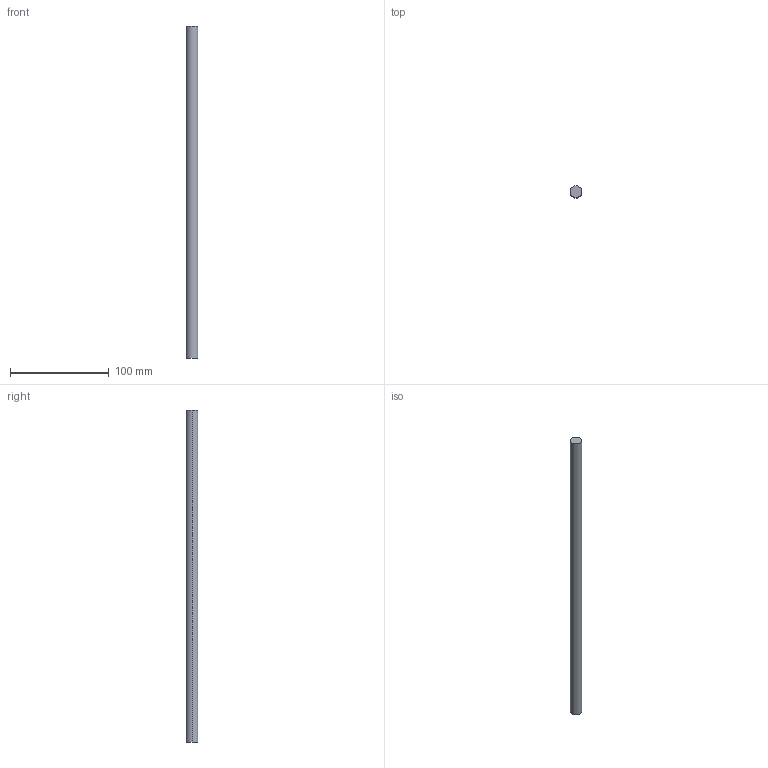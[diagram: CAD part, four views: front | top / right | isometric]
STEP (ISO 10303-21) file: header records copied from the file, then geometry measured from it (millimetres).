
FILE_DESCRIPTION (( 'STEP AP214' ), '1' );
FILE_NAME ('Innenschub H182 - S16_S17 - 450.step', '2010-09-07T14:55:57', ( 'grass' ), ( '' ), 'SwSTEP 2.0', 'SolidWorks 2010', '' );
FILE_SCHEMA (( 'AUTOMOTIVE_DESIGN' ));
Length unit declared in the file: millimetre
Products named in the file (1): Innenschub H182 - S16_S17 - 450
Bounding box: 12 x 12 x 337 mm (x, y, z)
Volume: 38113.8 mm3; surface area: 12930.8 mm2
Topology: 1 solids, 1 shells, 4 faces, 6 edges, 4 vertices
Faces by surface type: cylinder 2, plane 2
Entity records: 128 total; most frequent: DIRECTION 20, CARTESIAN_POINT 15, ORIENTED_EDGE 12, AXIS2_PLACEMENT_3D 9, EDGE_CURVE 6, ADVANCED_FACE 4, VERTEX_POINT 4, EDGE_LOOP 4
